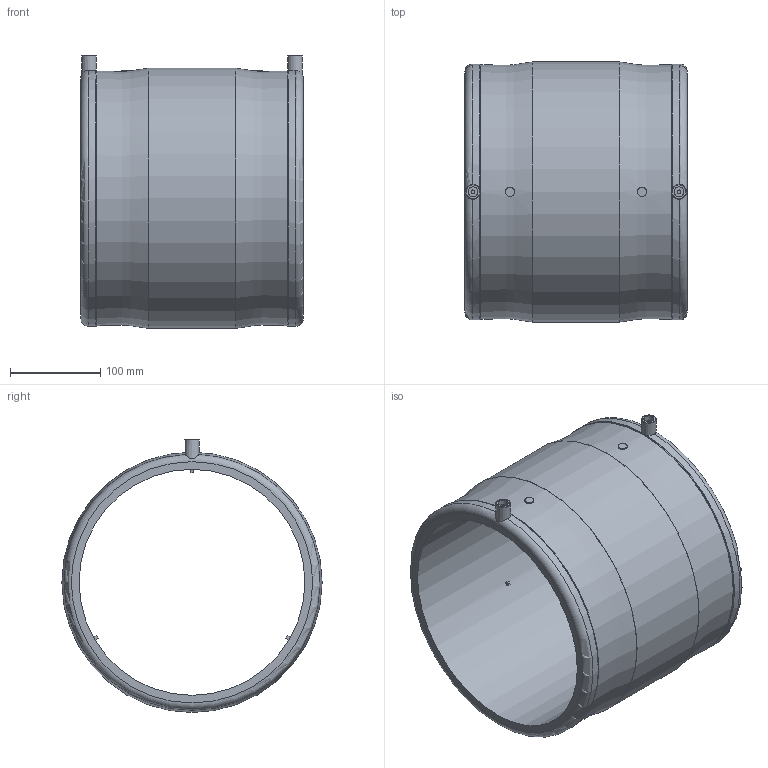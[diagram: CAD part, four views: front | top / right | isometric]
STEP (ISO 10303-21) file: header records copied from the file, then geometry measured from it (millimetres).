
FILE_DESCRIPTION(/* description */ ('Unknown'),/* implementation_level */ '2;1');
FILE_NAME(/* name */ 'MP250B',/* time_stamp */ '2021-05-06T12:13:11+02:00',/* author */ ('Unknown'),/* organization */ ('Unknown'),/* preprocessor_version */ 'ST-DEVELOPER v16.7',/* originating_system */ 'Solid Edge',/* authorisation */ 'Unknown');
FILE_SCHEMA (('AUTOMOTIVE_DESIGN {1 0 10303 214 3 1 1}'));
Length unit declared in the file: millimetre
Products named in the file (1): MP250B
Bounding box: 246 x 288 x 302 mm (x, y, z)
Volume: 3541084 mm3; surface area: 438634.6 mm2
Topology: 1 solids, 1 shells, 55 faces, 136 edges, 89 vertices
Faces by surface type: plane 25, cylinder 16, torus 12, cone 2
Full cylindrical faces by diameter (mm): 4 x2, 10 x2, 11 x2, 250 x1, 288 x1
Entity records: 1482 total; most frequent: CARTESIAN_POINT 316, DIRECTION 244, ORIENTED_EDGE 196, AXIS2_PLACEMENT_3D 104, EDGE_CURVE 98, EDGE_LOOP 86, FACE_BOUND 86, VERTEX_POINT 74
